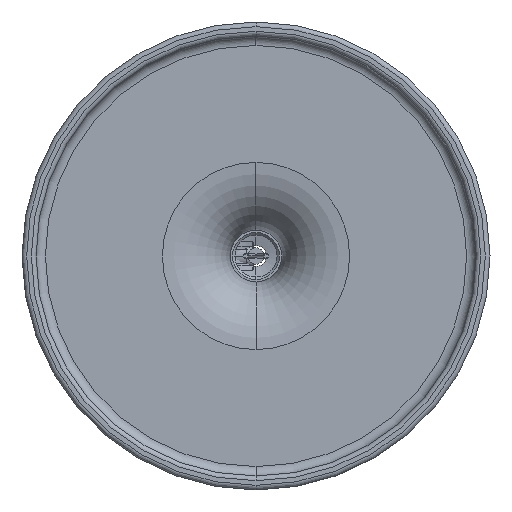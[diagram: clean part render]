
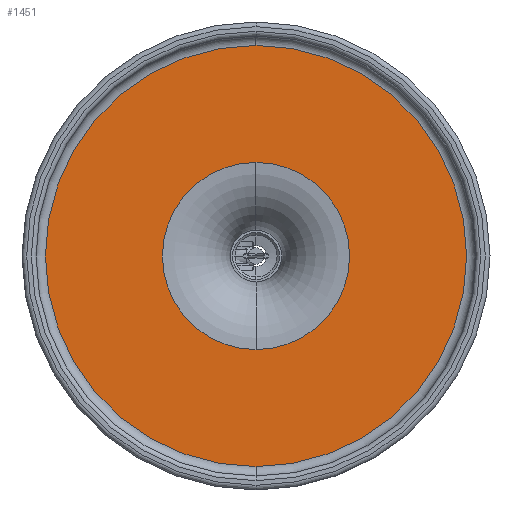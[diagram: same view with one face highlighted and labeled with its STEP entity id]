
A CAD part, front view. The second image highlights one B-rep face of the part: STEP entity #1451.
In plain terms, the highlighted planar face has unit normal (0, -1, 0).
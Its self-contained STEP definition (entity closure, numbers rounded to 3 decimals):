
#99 = CARTESIAN_POINT ( 'NONE',  ( 0., 63.472, 0. ) ) ;
#226 = CARTESIAN_POINT ( 'NONE',  ( 0., 63.472, 0. ) ) ;
#415 = DIRECTION ( 'NONE',  ( 0., 0., 1. ) ) ;
#418 = ORIENTED_EDGE ( 'NONE', *, *, #3343, .F. ) ;
#508 = AXIS2_PLACEMENT_3D ( 'NONE', #99, #2378, #951 ) ;
#566 = DIRECTION ( 'NONE',  ( 0., 0., -1. ) ) ;
#727 = CARTESIAN_POINT ( 'NONE',  ( 0., 63.472, -45. ) ) ;
#848 = DIRECTION ( 'NONE',  ( 0., 0., -1. ) ) ;
#951 = DIRECTION ( 'NONE',  ( 0., 0., -1. ) ) ;
#975 = AXIS2_PLACEMENT_3D ( 'NONE', #1198, #1930, #415 ) ;
#1132 = ORIENTED_EDGE ( 'NONE', *, *, #3348, .F. ) ;
#1198 = CARTESIAN_POINT ( 'NONE',  ( -45., 63.472, 0. ) ) ;
#1214 = AXIS2_PLACEMENT_3D ( 'NONE', #1522, #2961, #3695 ) ;
#1257 = EDGE_LOOP ( 'NONE', ( #1132, #418 ) ) ;
#1285 = CIRCLE ( 'NONE', #508, 20. ) ;
#1321 = VERTEX_POINT ( 'NONE', #727 ) ;
#1375 = EDGE_CURVE ( 'NONE', #1321, #3451, #3012, .T. ) ;
#1451 = ADVANCED_FACE ( 'NONE', ( #1897, #2292 ), #1544, .F. ) ;
#1522 = CARTESIAN_POINT ( 'NONE',  ( 0., 63.472, 0. ) ) ;
#1544 = PLANE ( 'NONE',  #975 ) ;
#1882 = AXIS2_PLACEMENT_3D ( 'NONE', #226, #3811, #566 ) ;
#1897 = FACE_BOUND ( 'NONE', #1257, .T. ) ;
#1930 = DIRECTION ( 'NONE',  ( 0., 1., 0. ) ) ;
#2292 = FACE_OUTER_BOUND ( 'NONE', #3040, .T. ) ;
#2378 = DIRECTION ( 'NONE',  ( 0., -1., 0. ) ) ;
#2571 = ORIENTED_EDGE ( 'NONE', *, *, #2576, .T. ) ;
#2576 = EDGE_CURVE ( 'NONE', #3451, #1321, #4505, .T. ) ;
#2961 = DIRECTION ( 'NONE',  ( 0., -1., 0. ) ) ;
#2992 = DIRECTION ( 'NONE',  ( 0., -1., 0. ) ) ;
#3012 = CIRCLE ( 'NONE', #1214, 45. ) ;
#3040 = EDGE_LOOP ( 'NONE', ( #3420, #2571 ) ) ;
#3161 = AXIS2_PLACEMENT_3D ( 'NONE', #4083, #2992, #848 ) ;
#3343 = EDGE_CURVE ( 'NONE', #4206, #4587, #1285, .T. ) ;
#3348 = EDGE_CURVE ( 'NONE', #4587, #4206, #4135, .T. ) ;
#3420 = ORIENTED_EDGE ( 'NONE', *, *, #1375, .T. ) ;
#3451 = VERTEX_POINT ( 'NONE', #4285 ) ;
#3563 = CARTESIAN_POINT ( 'NONE',  ( 0., 63.472, -20. ) ) ;
#3660 = CARTESIAN_POINT ( 'NONE',  ( 0., 63.472, 20. ) ) ;
#3695 = DIRECTION ( 'NONE',  ( 0., 0., -1. ) ) ;
#3811 = DIRECTION ( 'NONE',  ( 0., -1., 0. ) ) ;
#4083 = CARTESIAN_POINT ( 'NONE',  ( 0., 63.472, 0. ) ) ;
#4135 = CIRCLE ( 'NONE', #1882, 20. ) ;
#4206 = VERTEX_POINT ( 'NONE', #3660 ) ;
#4285 = CARTESIAN_POINT ( 'NONE',  ( 0., 63.472, 45. ) ) ;
#4505 = CIRCLE ( 'NONE', #3161, 45. ) ;
#4587 = VERTEX_POINT ( 'NONE', #3563 ) ;
